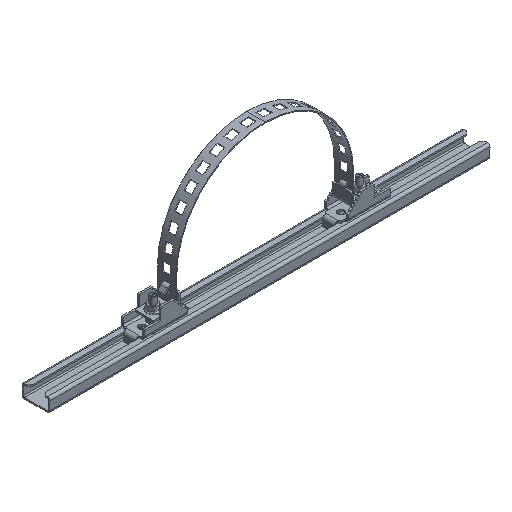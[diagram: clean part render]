
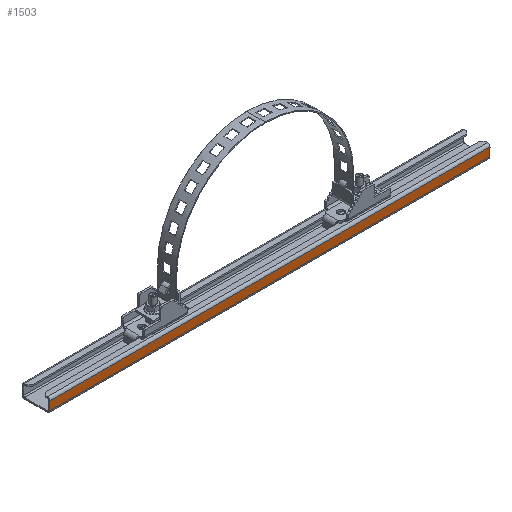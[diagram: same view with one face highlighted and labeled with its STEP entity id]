
A CAD part, isometric view. The second image highlights one B-rep face of the part: STEP entity #1503.
In plain terms, the highlighted planar face has unit normal (0, -1, -0.004) as drawn and (0, 0, 1) by its records, which use the part's own axes.
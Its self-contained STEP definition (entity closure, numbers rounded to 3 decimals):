
#824 = EDGE_CURVE ( 'NONE', #5540, #6504, #3699, .T. ) ;
#1503 = ADVANCED_FACE ( 'NONE', ( #11795 ), #2638, .F. ) ;
#1847 = LINE ( 'NONE', #11404, #11516 ) ;
#1868 = DIRECTION ( 'NONE',  ( -1., 0., 0. ) ) ;
#2466 = CARTESIAN_POINT ( 'NONE',  ( 15., -300., 19. ) ) ;
#2578 = VECTOR ( 'NONE', #7038, 1000. ) ;
#2638 = PLANE ( 'NONE',  #5564 ) ;
#2835 = CARTESIAN_POINT ( 'NONE',  ( 15., 300., 19. ) ) ;
#3699 = LINE ( 'NONE', #7247, #7223 ) ;
#3707 = CARTESIAN_POINT ( 'NONE',  ( 0., 600., 19. ) ) ;
#5220 = CARTESIAN_POINT ( 'NONE',  ( 3.5, 300., 19. ) ) ;
#5336 = DIRECTION ( 'NONE',  ( 0., -1., 0. ) ) ;
#5540 = VERTEX_POINT ( 'NONE', #2835 ) ;
#5564 = AXIS2_PLACEMENT_3D ( 'NONE', #3707, #10295, #1868 ) ;
#6504 = VERTEX_POINT ( 'NONE', #2466 ) ;
#6550 = LINE ( 'NONE', #11445, #7159 ) ;
#6813 = EDGE_CURVE ( 'NONE', #11871, #5540, #11671, .T. ) ;
#6887 = EDGE_CURVE ( 'NONE', #11871, #9468, #1847, .T. ) ;
#6951 = CARTESIAN_POINT ( 'NONE',  ( 0., 300., 19. ) ) ;
#7038 = DIRECTION ( 'NONE',  ( 1., 0., 0. ) ) ;
#7159 = VECTOR ( 'NONE', #10701, 1000. ) ;
#7223 = VECTOR ( 'NONE', #5336, 1000. ) ;
#7247 = CARTESIAN_POINT ( 'NONE',  ( 15., 600., 19. ) ) ;
#7395 = ORIENTED_EDGE ( 'NONE', *, *, #7852, .T. ) ;
#7852 = EDGE_CURVE ( 'NONE', #9468, #6504, #6550, .T. ) ;
#7861 = EDGE_LOOP ( 'NONE', ( #8292, #9452, #9758, #7395 ) ) ;
#8228 = CARTESIAN_POINT ( 'NONE',  ( 3.5, -300., 19. ) ) ;
#8292 = ORIENTED_EDGE ( 'NONE', *, *, #824, .F. ) ;
#9452 = ORIENTED_EDGE ( 'NONE', *, *, #6813, .F. ) ;
#9468 = VERTEX_POINT ( 'NONE', #8228 ) ;
#9758 = ORIENTED_EDGE ( 'NONE', *, *, #6887, .T. ) ;
#10295 = DIRECTION ( 'NONE',  ( 0., 0., -1. ) ) ;
#10448 = DIRECTION ( 'NONE',  ( 0., -1., 0. ) ) ;
#10701 = DIRECTION ( 'NONE',  ( 1., 0., 0. ) ) ;
#11404 = CARTESIAN_POINT ( 'NONE',  ( 3.5, 600., 19. ) ) ;
#11445 = CARTESIAN_POINT ( 'NONE',  ( 0., -300., 19. ) ) ;
#11516 = VECTOR ( 'NONE', #10448, 1000. ) ;
#11671 = LINE ( 'NONE', #6951, #2578 ) ;
#11795 = FACE_OUTER_BOUND ( 'NONE', #7861, .T. ) ;
#11871 = VERTEX_POINT ( 'NONE', #5220 ) ;
